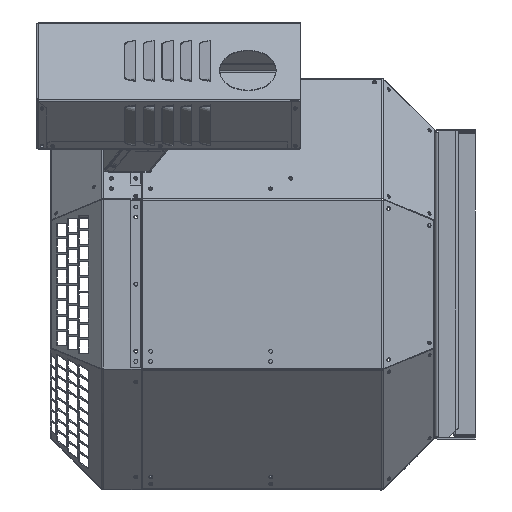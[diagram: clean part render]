
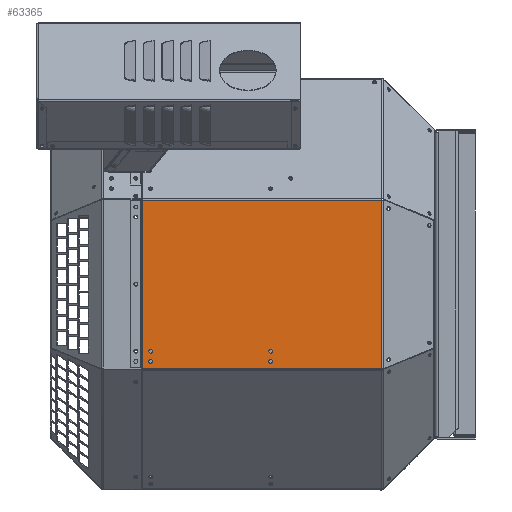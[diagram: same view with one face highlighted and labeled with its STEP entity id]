
A CAD part, left-side view. The second image highlights one B-rep face of the part: STEP entity #63365.
In plain terms, the highlighted planar face has unit normal (-1, 0, 0).
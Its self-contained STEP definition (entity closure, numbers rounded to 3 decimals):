
#249 = CARTESIAN_POINT ( 'NONE',  ( -226., 320.755, 91.837 ) ) ;
#276 = EDGE_LOOP ( 'NONE', ( #69610, #78549, #12223, #23596, #71265, #60154, #65051, #41013 ) ) ;
#848 = DIRECTION ( 'NONE',  ( -1., 0., 0. ) ) ;
#924 = LINE ( 'NONE', #86264, #2994 ) ;
#1022 = CARTESIAN_POINT ( 'NONE',  ( -226., 58.185, -92.287 ) ) ;
#1718 = VECTOR ( 'NONE', #18665, 1000. ) ;
#2084 = LINE ( 'NONE', #12692, #87186 ) ;
#2994 = VECTOR ( 'NONE', #38031, 1000. ) ;
#3243 = EDGE_CURVE ( 'NONE', #76931, #69207, #57346, .T. ) ;
#3400 = VERTEX_POINT ( 'NONE', #83052 ) ;
#3425 = EDGE_LOOP ( 'NONE', ( #50593, #15600 ) ) ;
#4139 = EDGE_CURVE ( 'NONE', #3400, #42153, #85600, .T. ) ;
#4535 = CARTESIAN_POINT ( 'NONE',  ( -226., 180.147, -84.818 ) ) ;
#4892 = VERTEX_POINT ( 'NONE', #1022 ) ;
#5027 = CARTESIAN_POINT ( 'NONE',  ( -226., 311.927, -73.71 ) ) ;
#6578 = EDGE_CURVE ( 'NONE', #42153, #4892, #19013, .T. ) ;
#7944 = VERTEX_POINT ( 'NONE', #79295 ) ;
#8086 = DIRECTION ( 'NONE',  ( 0., -1., 0. ) ) ;
#8675 = DIRECTION ( 'NONE',  ( 0., 0., -1. ) ) ;
#10719 = CARTESIAN_POINT ( 'NONE',  ( -226., 180.147, -71.61 ) ) ;
#10727 = VERTEX_POINT ( 'NONE', #85900 ) ;
#10732 = DIRECTION ( 'NONE',  ( 0., 0., 1. ) ) ;
#11677 = CIRCLE ( 'NONE', #58667, 2.1 ) ;
#11717 = EDGE_LOOP ( 'NONE', ( #86127, #74999 ) ) ;
#11750 = LINE ( 'NONE', #82239, #59049 ) ;
#12216 = DIRECTION ( 'NONE',  ( -1., 0., 0. ) ) ;
#12223 = ORIENTED_EDGE ( 'NONE', *, *, #32063, .T. ) ;
#12395 = CIRCLE ( 'NONE', #28067, 2.1 ) ;
#12692 = CARTESIAN_POINT ( 'NONE',  ( -226., 320.763, 93.198 ) ) ;
#12765 = EDGE_CURVE ( 'NONE', #43778, #10727, #18808, .T. ) ;
#14367 = ORIENTED_EDGE ( 'NONE', *, *, #36296, .F. ) ;
#15600 = ORIENTED_EDGE ( 'NONE', *, *, #27813, .F. ) ;
#17231 = CIRCLE ( 'NONE', #35877, 2.1 ) ;
#17774 = CARTESIAN_POINT ( 'NONE',  ( -226., 311.927, -71.61 ) ) ;
#18353 = CARTESIAN_POINT ( 'NONE',  ( -226., 180.147, -73.71 ) ) ;
#18665 = DIRECTION ( 'NONE',  ( 0., 0., -1. ) ) ;
#18808 = CIRCLE ( 'NONE', #40563, 2.1 ) ;
#19013 = LINE ( 'NONE', #52520, #68413 ) ;
#20006 = ORIENTED_EDGE ( 'NONE', *, *, #12765, .F. ) ;
#20440 = FACE_OUTER_BOUND ( 'NONE', #276, .T. ) ;
#20726 = CARTESIAN_POINT ( 'NONE',  ( -226., 311.927, -84.818 ) ) ;
#23596 = ORIENTED_EDGE ( 'NONE', *, *, #64689, .T. ) ;
#23961 = CARTESIAN_POINT ( 'NONE',  ( -226., 320.755, -94.837 ) ) ;
#25080 = DIRECTION ( 'NONE',  ( 0., 0., 1. ) ) ;
#27813 = EDGE_CURVE ( 'NONE', #56397, #7944, #32398, .T. ) ;
#27833 = AXIS2_PLACEMENT_3D ( 'NONE', #20726, #31193, #41881 ) ;
#28067 = AXIS2_PLACEMENT_3D ( 'NONE', #18353, #65337, #25080 ) ;
#28071 = EDGE_CURVE ( 'NONE', #3400, #80317, #67020, .T. ) ;
#28198 = AXIS2_PLACEMENT_3D ( 'NONE', #4535, #80873, #54076 ) ;
#28567 = EDGE_CURVE ( 'NONE', #37531, #53704, #924, .T. ) ;
#28687 = CARTESIAN_POINT ( 'NONE',  ( -226., 180.147, -86.918 ) ) ;
#29428 = DIRECTION ( 'NONE',  ( -1., 0., 0. ) ) ;
#31193 = DIRECTION ( 'NONE',  ( -1., 0., 0. ) ) ;
#31559 = CARTESIAN_POINT ( 'NONE',  ( -226., 311.927, -82.718 ) ) ;
#31987 = VECTOR ( 'NONE', #8086, 1000. ) ;
#32063 = EDGE_CURVE ( 'NONE', #53704, #82575, #53227, .T. ) ;
#32282 = DIRECTION ( 'NONE',  ( -1., 0., 0. ) ) ;
#32398 = CIRCLE ( 'NONE', #28198, 2.1 ) ;
#32444 = AXIS2_PLACEMENT_3D ( 'NONE', #52473, #12216, #59239 ) ;
#33999 = EDGE_CURVE ( 'NONE', #80317, #35213, #86662, .T. ) ;
#34161 = DIRECTION ( 'NONE',  ( -1., 0., 0. ) ) ;
#35213 = VERTEX_POINT ( 'NONE', #47821 ) ;
#35877 = AXIS2_PLACEMENT_3D ( 'NONE', #74407, #34161, #81142 ) ;
#36296 = EDGE_CURVE ( 'NONE', #10727, #43778, #48545, .T. ) ;
#37531 = VERTEX_POINT ( 'NONE', #71912 ) ;
#38031 = DIRECTION ( 'NONE',  ( 0., -1., 0. ) ) ;
#38302 = FACE_BOUND ( 'NONE', #63528, .T. ) ;
#40563 = AXIS2_PLACEMENT_3D ( 'NONE', #5027, #65516, #10732 ) ;
#41013 = ORIENTED_EDGE ( 'NONE', *, *, #33999, .T. ) ;
#41881 = DIRECTION ( 'NONE',  ( 0., 0., 1. ) ) ;
#42153 = VERTEX_POINT ( 'NONE', #73194 ) ;
#43778 = VERTEX_POINT ( 'NONE', #17774 ) ;
#43794 = EDGE_CURVE ( 'NONE', #45652, #45936, #12395, .T. ) ;
#45652 = VERTEX_POINT ( 'NONE', #10719 ) ;
#45936 = VERTEX_POINT ( 'NONE', #80010 ) ;
#47821 = CARTESIAN_POINT ( 'NONE',  ( -226., 320.763, 91.837 ) ) ;
#47855 = DIRECTION ( 'NONE',  ( 0., 0., 1. ) ) ;
#48545 = CIRCLE ( 'NONE', #32444, 2.1 ) ;
#48870 = VECTOR ( 'NONE', #73029, 1000. ) ;
#49188 = VECTOR ( 'NONE', #54759, 1000. ) ;
#49714 = EDGE_CURVE ( 'NONE', #7944, #56397, #11677, .T. ) ;
#50593 = ORIENTED_EDGE ( 'NONE', *, *, #49714, .F. ) ;
#51839 = CARTESIAN_POINT ( 'NONE',  ( -226., 311.927, -86.918 ) ) ;
#51922 = ORIENTED_EDGE ( 'NONE', *, *, #43794, .F. ) ;
#52118 = CARTESIAN_POINT ( 'NONE',  ( -226., 320.755, -91.837 ) ) ;
#52473 = CARTESIAN_POINT ( 'NONE',  ( -226., 311.927, -73.71 ) ) ;
#52520 = CARTESIAN_POINT ( 'NONE',  ( -226., 58.185, 93.198 ) ) ;
#53227 = LINE ( 'NONE', #23961, #1718 ) ;
#53704 = VERTEX_POINT ( 'NONE', #52118 ) ;
#54076 = DIRECTION ( 'NONE',  ( 0., 0., 1. ) ) ;
#54540 = CARTESIAN_POINT ( 'NONE',  ( -226., 334.155, 92.287 ) ) ;
#54759 = DIRECTION ( 'NONE',  ( 0., 0., -1. ) ) ;
#56175 = FACE_BOUND ( 'NONE', #3425, .T. ) ;
#56397 = VERTEX_POINT ( 'NONE', #28687 ) ;
#57346 = CIRCLE ( 'NONE', #27833, 2.1 ) ;
#58268 = FACE_BOUND ( 'NONE', #59004, .T. ) ;
#58667 = AXIS2_PLACEMENT_3D ( 'NONE', #72523, #32282, #79275 ) ;
#59004 = EDGE_LOOP ( 'NONE', ( #51922, #83947 ) ) ;
#59049 = VECTOR ( 'NONE', #62229, 1000. ) ;
#59239 = DIRECTION ( 'NONE',  ( 0., 0., 1. ) ) ;
#60154 = ORIENTED_EDGE ( 'NONE', *, *, #4139, .F. ) ;
#62229 = DIRECTION ( 'NONE',  ( 0., -1., 0. ) ) ;
#63365 = ADVANCED_FACE ( 'NONE', ( #56175, #58268, #74060, #38302, #20440 ), #74555, .T. ) ;
#63528 = EDGE_LOOP ( 'NONE', ( #20006, #14367 ) ) ;
#64689 = EDGE_CURVE ( 'NONE', #82575, #4892, #11750, .T. ) ;
#65051 = ORIENTED_EDGE ( 'NONE', *, *, #28071, .T. ) ;
#65337 = DIRECTION ( 'NONE',  ( -1., 0., 0. ) ) ;
#65516 = DIRECTION ( 'NONE',  ( -1., 0., 0. ) ) ;
#66020 = EDGE_CURVE ( 'NONE', #37531, #35213, #2084, .T. ) ;
#67020 = LINE ( 'NONE', #68236, #49188 ) ;
#67865 = CARTESIAN_POINT ( 'NONE',  ( -226., 320.755, -92.287 ) ) ;
#68236 = CARTESIAN_POINT ( 'NONE',  ( -226., 320.755, 94.837 ) ) ;
#68413 = VECTOR ( 'NONE', #8675, 1000. ) ;
#69207 = VERTEX_POINT ( 'NONE', #51839 ) ;
#69610 = ORIENTED_EDGE ( 'NONE', *, *, #66020, .F. ) ;
#69698 = CARTESIAN_POINT ( 'NONE',  ( -226., 311.927, -84.818 ) ) ;
#71265 = ORIENTED_EDGE ( 'NONE', *, *, #6578, .F. ) ;
#71905 = AXIS2_PLACEMENT_3D ( 'NONE', #69698, #29428, #76429 ) ;
#71912 = CARTESIAN_POINT ( 'NONE',  ( -226., 320.763, -91.837 ) ) ;
#71922 = EDGE_CURVE ( 'NONE', #69207, #76931, #83012, .T. ) ;
#72523 = CARTESIAN_POINT ( 'NONE',  ( -226., 180.147, -84.818 ) ) ;
#73029 = DIRECTION ( 'NONE',  ( 0., 1., 0. ) ) ;
#73194 = CARTESIAN_POINT ( 'NONE',  ( -226., 58.185, 92.287 ) ) ;
#74060 = FACE_BOUND ( 'NONE', #11717, .T. ) ;
#74407 = CARTESIAN_POINT ( 'NONE',  ( -226., 180.147, -73.71 ) ) ;
#74555 = PLANE ( 'NONE',  #86177 ) ;
#74999 = ORIENTED_EDGE ( 'NONE', *, *, #71922, .F. ) ;
#76429 = DIRECTION ( 'NONE',  ( 0., 0., 1. ) ) ;
#76931 = VERTEX_POINT ( 'NONE', #31559 ) ;
#78549 = ORIENTED_EDGE ( 'NONE', *, *, #28567, .T. ) ;
#79275 = DIRECTION ( 'NONE',  ( 0., 0., 1. ) ) ;
#79295 = CARTESIAN_POINT ( 'NONE',  ( -226., 180.147, -82.718 ) ) ;
#80010 = CARTESIAN_POINT ( 'NONE',  ( -226., 180.147, -75.81 ) ) ;
#80317 = VERTEX_POINT ( 'NONE', #249 ) ;
#80873 = DIRECTION ( 'NONE',  ( -1., 0., 0. ) ) ;
#81142 = DIRECTION ( 'NONE',  ( 0., 0., 1. ) ) ;
#81299 = CARTESIAN_POINT ( 'NONE',  ( -226., 334.155, 93.198 ) ) ;
#82239 = CARTESIAN_POINT ( 'NONE',  ( -226., 334.155, -92.287 ) ) ;
#82575 = VERTEX_POINT ( 'NONE', #67865 ) ;
#83012 = CIRCLE ( 'NONE', #71905, 2.1 ) ;
#83052 = CARTESIAN_POINT ( 'NONE',  ( -226., 320.755, 92.287 ) ) ;
#83947 = ORIENTED_EDGE ( 'NONE', *, *, #86990, .F. ) ;
#85499 = CARTESIAN_POINT ( 'NONE',  ( -226., 334.155, 91.837 ) ) ;
#85600 = LINE ( 'NONE', #54540, #31987 ) ;
#85900 = CARTESIAN_POINT ( 'NONE',  ( -226., 311.927, -75.81 ) ) ;
#86127 = ORIENTED_EDGE ( 'NONE', *, *, #3243, .F. ) ;
#86177 = AXIS2_PLACEMENT_3D ( 'NONE', #81299, #848, #47855 ) ;
#86264 = CARTESIAN_POINT ( 'NONE',  ( -226., 334.155, -91.837 ) ) ;
#86662 = LINE ( 'NONE', #85499, #48870 ) ;
#86686 = DIRECTION ( 'NONE',  ( 0., 0., 1. ) ) ;
#86990 = EDGE_CURVE ( 'NONE', #45936, #45652, #17231, .T. ) ;
#87186 = VECTOR ( 'NONE', #86686, 1000. ) ;
